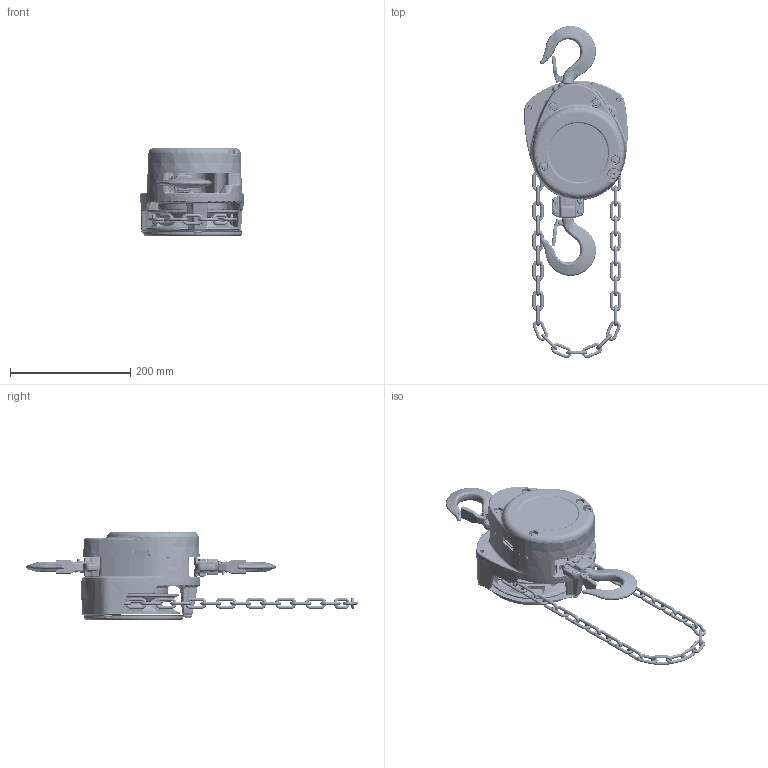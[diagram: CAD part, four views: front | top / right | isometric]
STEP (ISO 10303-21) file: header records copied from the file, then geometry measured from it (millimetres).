
FILE_DESCRIPTION (( 'STEP AP214' ), '1' );
FILE_NAME ('CF010.STEP', '2026-08-13T17:31:01', ( '' ), ( '' ), 'SwSTEP 2.0', 'SolidWorks 2026', '' );
FILE_SCHEMA (( 'AUTOMOTIVE_DESIGN' ));
Length unit declared in the file: inch
Products named in the file (27): CF187005; C3BA010-90312; C1FA015-91561; C1FA010-90112; C1FA010-91021; 9091282_9091282; M3041010; CF010; HCCF005; M2049010; C2FA010-91711; LCCF010; 9012711_9012711; CF071010; HCCF005 FOR CF010; 9098506_9098506; 9091284_9091284; CF164010; 80347; C1FA010-91013; C1FA010-91052; 9009411_9009411; 9091272_9091272; C3BA010-90011; M3021A010; CF001010_90 DEGREE; C4FA010-91151
Assembly tree (77 placements, depth 3):
  CF010
    C1FA010-91021
    C1FA010-91013
    C1FA010-91052
    CF001010_90 DEGREE
      C3BA010-90011
      C1FA010-90112  x2
      CF071010
    C4FA010-91151
    C2FA010-91711
    9098506_9098506  x5
    9091284_9091284  x2
    9091272_9091272
    CF164010
    M3021A010
      C3BA010-90312  x2
      C3BA010-90011
      CF071010
    M3041010
    M2049010
    9009411_9009411
    9012711_9012711  x3
    CF187005  x3
    C1FA015-91561
    9091282_9091282  x2
    HCCF005 FOR CF010
      HCCF005  x40
  LCCF010
  80347
Bounding box: 172.25 x 551.74 x 146.7 mm (x, y, z)
Volume: 1428754.5 mm3; surface area: 570057.5 mm2
Topology: 75 solids, 75 shells, 5247 faces, 12448 edges, 7101 vertices
Faces by surface type: torus 1444, cylinder 992, plane 938, cone 909, bspline 893, sphere 71
Entity records: 248854 total; most frequent: CARTESIAN_POINT 126538, ORIENTED_EDGE 19778, DIRECTION 19005, EDGE_CURVE 9889, AXIS2_PLACEMENT_3D 8218, VERTEX_POINT 5800, CIRCLE 4749, EDGE_LOOP 4369
